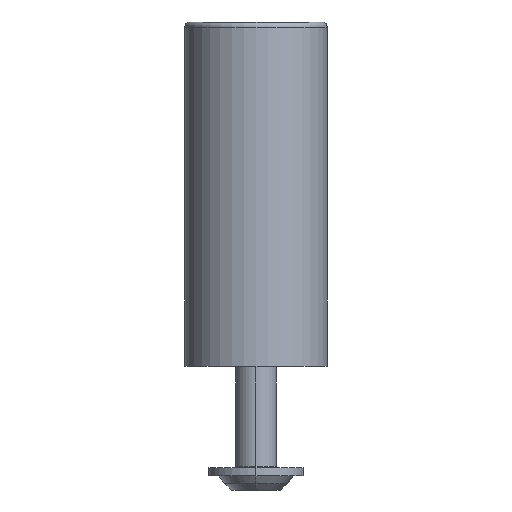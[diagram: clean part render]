
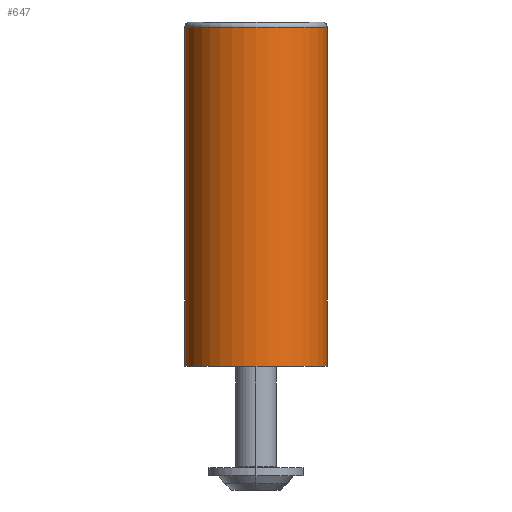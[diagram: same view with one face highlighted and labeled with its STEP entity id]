
A CAD part, left-side view. The second image highlights one B-rep face of the part: STEP entity #647.
In plain terms, the highlighted cylindrical face has radius 7 mm (diameter 14 mm), a partial arc.
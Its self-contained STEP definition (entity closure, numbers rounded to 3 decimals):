
#16=CARTESIAN_POINT('',(-48.,0.,0.));
#17=DIRECTION('',(0.,0.,1.));
#18=DIRECTION('',(0.,1.,0.));
#19=AXIS2_PLACEMENT_3D('',#16,#17,#18);
#68=DIRECTION('',(0.,0.,1.));
#69=VECTOR('',#68,7.362);
#70=CARTESIAN_POINT('',(-48.,-7.,26.));
#71=LINE('',#70,#69);
#181=DIRECTION('',(0.,0.,1.));
#182=VECTOR('',#181,26.);
#183=CARTESIAN_POINT('',(-48.,-7.,0.));
#184=LINE('',#183,#182);
#185=DIRECTION('',(0.,0.,-1.));
#186=VECTOR('',#185,26.);
#187=CARTESIAN_POINT('',(-48.,7.,26.));
#188=LINE('',#187,#186);
#189=DIRECTION('',(0.,0.,1.));
#190=VECTOR('',#189,7.362);
#191=CARTESIAN_POINT('',(-48.,7.,26.));
#192=LINE('',#191,#190);
#193=CARTESIAN_POINT('',(-48.,0.,33.362));
#194=DIRECTION('',(0.,0.,-1.));
#195=DIRECTION('',(0.,-1.,0.));
#196=AXIS2_PLACEMENT_3D('',#193,#194,#195);
#337=CARTESIAN_POINT('',(-48.,7.,0.));
#338=CARTESIAN_POINT('',(-48.,-7.,0.));
#339=VERTEX_POINT('',#337);
#340=VERTEX_POINT('',#338);
#342=CARTESIAN_POINT('',(-48.,7.,26.));
#344=VERTEX_POINT('',#342);
#347=CARTESIAN_POINT('',(-48.,-7.,26.));
#348=VERTEX_POINT('',#347);
#361=CARTESIAN_POINT('',(-48.,-7.,33.362));
#362=CARTESIAN_POINT('',(-48.,7.,33.362));
#363=VERTEX_POINT('',#361);
#364=VERTEX_POINT('',#362);
#632=CARTESIAN_POINT('',(-48.,0.,0.));
#633=DIRECTION('',(0.,0.,1.));
#634=DIRECTION('',(1.,0.,0.));
#635=AXIS2_PLACEMENT_3D('',#632,#633,#634);
#636=CYLINDRICAL_SURFACE('',#635,7.);
#638=ORIENTED_EDGE('',*,*,#637,.F.);
#639=ORIENTED_EDGE('',*,*,#434,.F.);
#641=ORIENTED_EDGE('',*,*,#640,.F.);
#642=ORIENTED_EDGE('',*,*,#544,.T.);
#643=ORIENTED_EDGE('',*,*,#623,.F.);
#644=ORIENTED_EDGE('',*,*,#484,.F.);
#645=EDGE_LOOP('',(#638,#639,#641,#642,#643,#644));
#646=FACE_OUTER_BOUND('',#645,.F.);
#647=ADVANCED_FACE('',(#646),#636,.T.);
#20=CIRCLE('',#19,7.);
#197=CIRCLE('',#196,7.);
#434=EDGE_CURVE('',#339,#340,#20,.T.);
#484=EDGE_CURVE('',#348,#363,#71,.T.);
#544=EDGE_CURVE('',#344,#364,#192,.T.);
#623=EDGE_CURVE('',#363,#364,#197,.T.);
#637=EDGE_CURVE('',#340,#348,#184,.T.);
#640=EDGE_CURVE('',#344,#339,#188,.T.);
